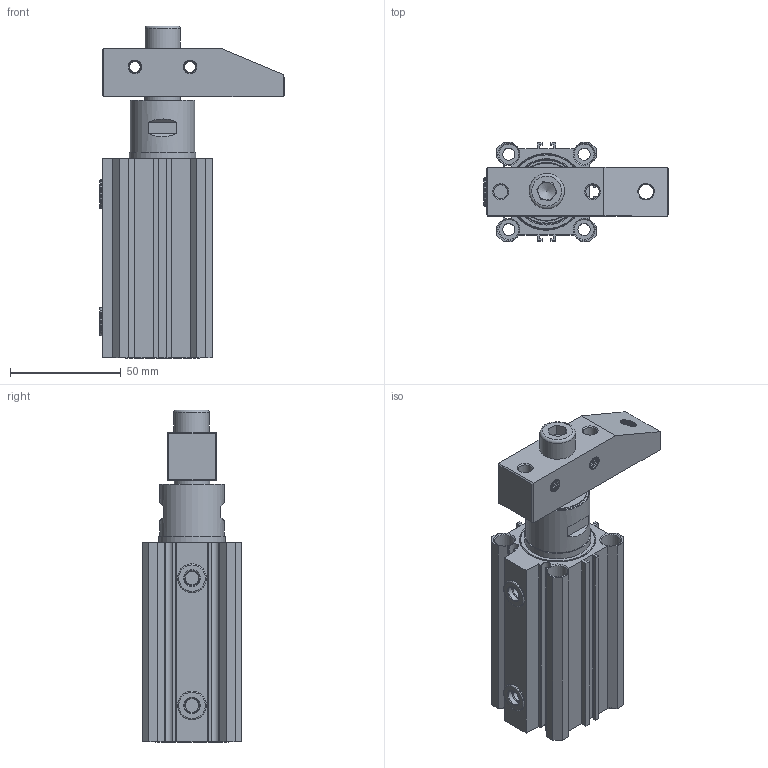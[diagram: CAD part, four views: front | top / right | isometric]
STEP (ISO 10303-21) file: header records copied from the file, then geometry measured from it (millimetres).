
FILE_DESCRIPTION(/* description */ ('STEP AP203'),/* implementation_level */ '2;1');
FILE_NAME(/* name */ 'E:\SERWER_ZAPAS\MODELE brakujace\PNEUMATIC\PB(STEP)\PBL3感应式转角缸三维图\PBL-32L_ZAMKNIETY.stp',/* time_stamp */ '2019-02-01T13:20:21+01:00',/* author */ ('Admin'),/* organization */ ('Î¢ÈíÖÐ¹ú'),/* preprocessor_version */ 'ST-DEVELOPER v17.2',/* originating_system */ 'Autodesk Inventor 2019',/* authorisation */ '');
FILE_SCHEMA (('AUTOMOTIVE_DESIGN { 1 0 10303 214 3 1 1 }'));
Products named in the file (11): PBL-32L_ZAMKNIETY; Áã¼þ533; µæÆ¬1; ºó22; ±¾; Parallel pins Unhardening Steel GB_GB_CONNECTING_PIECE_PIN_PPUS 4X30; s¸Ë22; »îÈû¸Ë23; 1-8¶ÂÍ·0023; Ñ¹±Û; Hexagon socket head cap screws GB_GB_FASTENER_SCREWS_HSHCS M10X30-S
Assembly tree (11 placements, depth 2):
  PBL-32L_ZAMKNIETY
    Áã¼þ533
    µæÆ¬1
    ºó22
    1-8¶ÂÍ·0023  x2
    ±¾
    Parallel pins Unhardening Steel GB_GB_CONNECTING_PIECE_PIN_PPUS 4X30
    s¸Ë22
    »îÈû¸Ë23
    Ñ¹±Û
    Hexagon socket head cap screws GB_GB_FASTENER_SCREWS_HSHCS M10X30-S
Bounding box: 83.3 x 45 x 150 mm (x, y, z)
Volume: 169920.9 mm3; surface area: 86831.1 mm2
Topology: 11 solids, 11 shells, 634 faces, 1833 edges, 1260 vertices
Faces by surface type: cylinder 222, plane 204, cone 110, torus 50, bspline 48
Full cylindrical faces by diameter (mm): 2 x3, 3 x2, 4 x4, 5 x52, 5.5 x4, 6 x2, 6.2 x2, 6.8 x15, 7 x2, 8.2 x18, 8.5 x1, 8.7 x2, 9 x8, 10 x30, 10.5 x1, 11.624 x1, 12 x4, 13 x2, 16 x4, 16.1 x2, 18 x1, 20.3 x1, 21 x1, 24 x3, 26 x2, 28 x1, 29 x3, 30 x1, 32 x9, 33.5 x9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
Entity records: 55999 total; most frequent: CARTESIAN_POINT 39316, ORIENTED_EDGE 3588, DIRECTION 3313, EDGE_CURVE 1794, AXIS2_PLACEMENT_3D 1326, VERTEX_POINT 1234, CIRCLE 715, EDGE_LOOP 700
